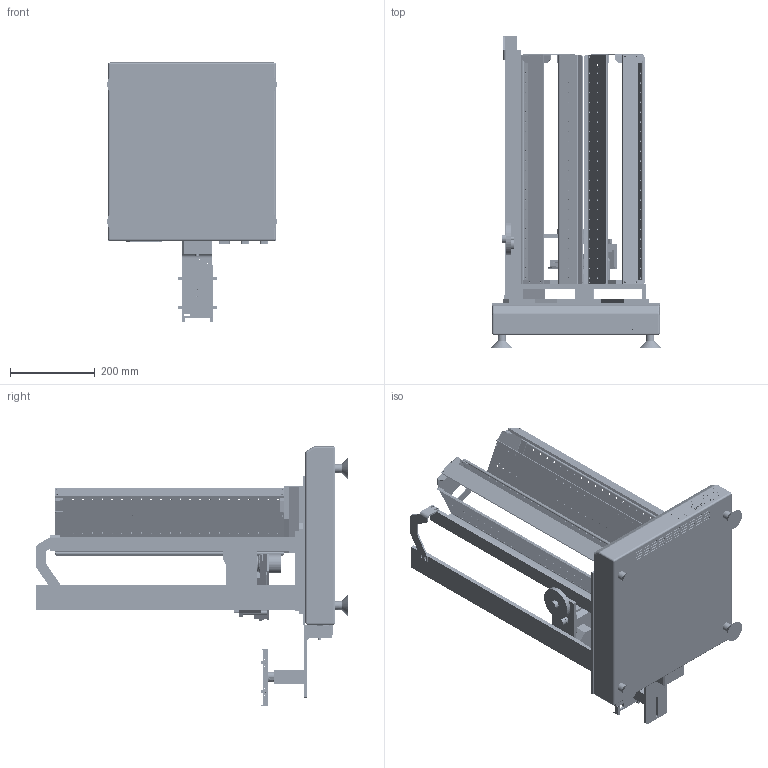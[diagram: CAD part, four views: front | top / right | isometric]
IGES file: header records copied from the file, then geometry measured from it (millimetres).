
Start section: SolidWorks IGES file using analytic representation for surfaces
Global section: file name: F:\Konstruktion\Massbilder f. CMa\LPX44_m.Std.TransferStn_0702\LPX44_m.Std.TransferStn.IGS; native system: SolidWorks 2006 by SolidWorks Corporation; preprocessor: SolidWorks 2006 by SolidWorks Corporation; author: cma; date: 080903.171154; units: millimetre
Bounding box: 400 x 735 x 611.67 mm (x, y, z)
Surface area: 2724145.7 mm2 (no closed solid volume)
Topology: 0 solids, 0 shells, 4137 faces, 70519 edges, 81932 vertices
Faces by surface type: revolution 2282, bspline 1855
